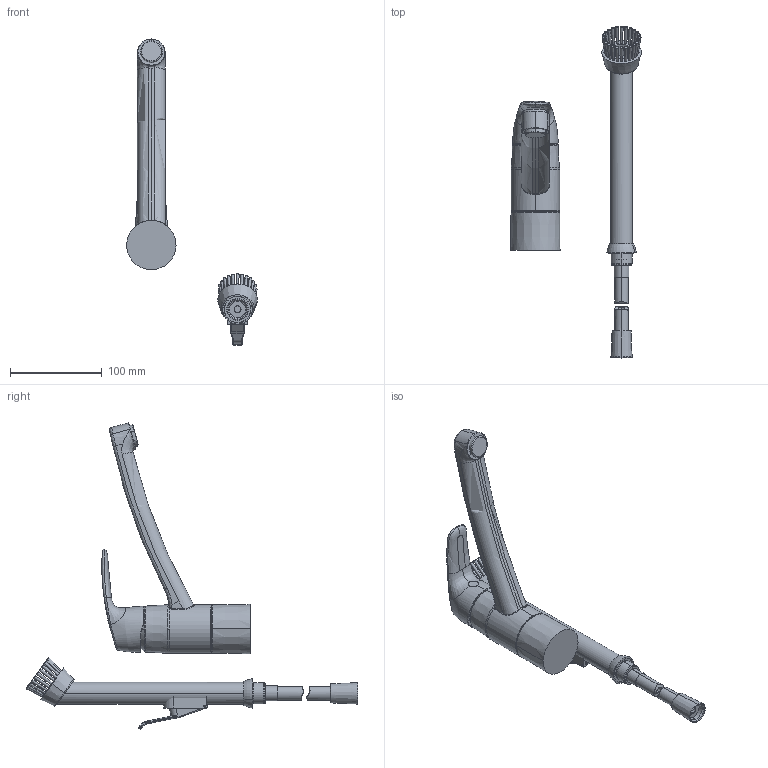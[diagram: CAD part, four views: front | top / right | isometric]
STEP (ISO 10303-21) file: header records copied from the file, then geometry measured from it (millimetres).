
FILE_DESCRIPTION (( 'STEP AP203' ), '1' );
FILE_NAME ('1022(2017).STEP', '2018-05-23T06:22:58', ( '' ), ( '' ), 'SwSTEP 2.0', 'SolidWorks 2016', '' );
FILE_SCHEMA (( 'CONFIG_CONTROL_DESIGN' ));
Length unit declared in the file: millimetre
Products named in the file (1): 1022(2017)
Bounding box: 142.2 x 361.42 x 333.18 mm (x, y, z)
Volume: 615947 mm3; surface area: 119989.3 mm2
Topology: 17 solids, 17 shells, 374 faces, 810 edges, 505 vertices
Faces by surface type: plane 97, bspline 90, cylinder 74, cone 68, torus 45
Entity records: 23220 total; most frequent: CARTESIAN_POINT 15643, ORIENTED_EDGE 1620, DIRECTION 1385, EDGE_CURVE 810, AXIS2_PLACEMENT_3D 594, VERTEX_POINT 505, EDGE_LOOP 419, FACE_OUTER_BOUND 374
